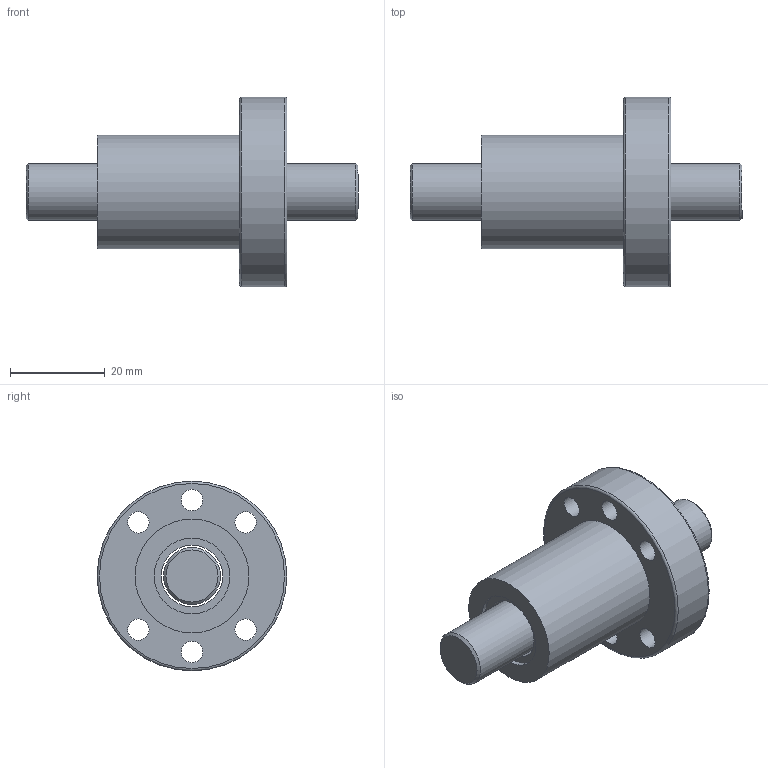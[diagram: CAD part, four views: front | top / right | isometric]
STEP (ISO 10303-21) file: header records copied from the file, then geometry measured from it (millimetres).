
FILE_DESCRIPTION(/* description */ (''),/* implementation_level */ '2;1');
FILE_NAME(/* name */ 'SFU1204',/* time_stamp */ '2007-10-26T13:24:15+08:00',/* author */ (''),/* organization */ (''),/* preprocessor_version */ 'ST-DEVELOPER v9',/* originating_system */ 'EDS PLM SOLUTIONS - UNIGRAPHICS NX 1.0',/* authorisation */ '');
FILE_SCHEMA (('CONFIG_CONTROL_DESIGN'));
Length unit declared in the file: millimetre
Products named in the file (1): FANNDA0400hu
Bounding box: 70 x 40 x 40 mm (x, y, z)
Volume: 27017.1 mm3; surface area: 10949.3 mm2
Topology: 2 solids, 2 shells, 23 faces, 50 edges, 34 vertices
Faces by surface type: cylinder 12, plane 7, cone 2, torus 2
Full cylindrical faces by diameter (mm): 4.5 x6, 12 x1, 13 x1, 16 x2, 24 x1, 40 x1
Entity records: 626 total; most frequent: DIRECTION 104, CARTESIAN_POINT 80, EDGE_LOOP 56, ORIENTED_EDGE 56, AXIS2_PLACEMENT_3D 52, FACE_BOUND 47, VERTEX_POINT 28, EDGE_CURVE 28
